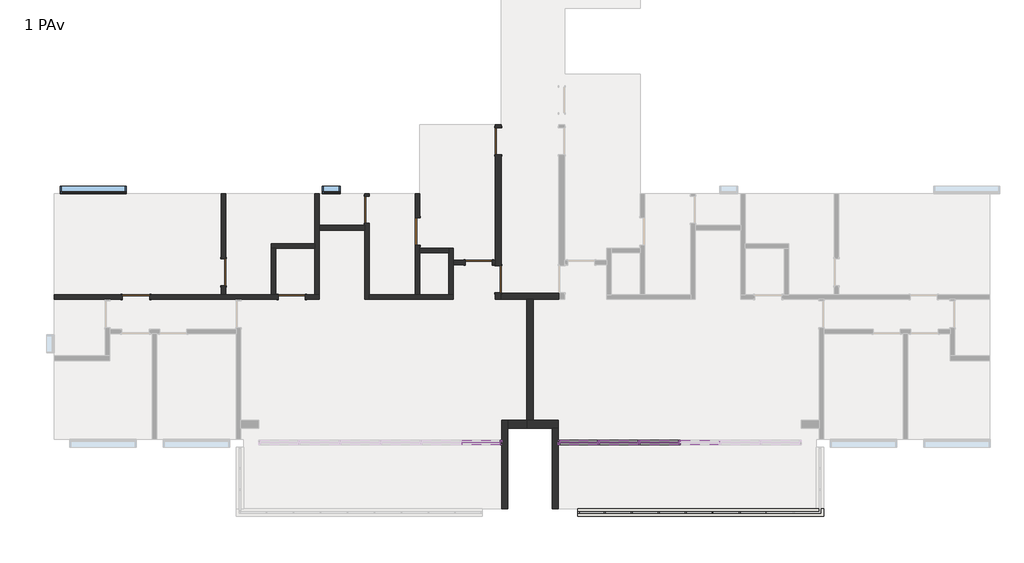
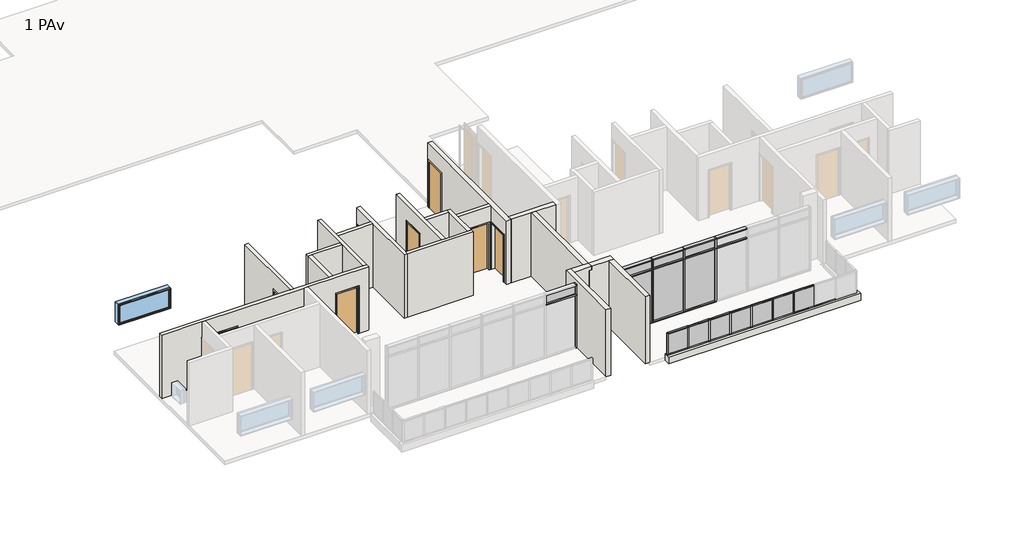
# One storey, part 2 of 6: 44 members, 20 walls, 14 plates, 8 doors, 2 windows.
"""IFC4 building model written with IfcOpenShell, lengths in millimetres."""

from ifc_helpers import new_model, si_unit, frame, origin, place, context, project, spatial, polyline, outline, extrude, faceted_brep, transform, mapped, element, save
from components import door_90_x_210_2c83007d, door_90_x_210_ee935524, door_90_x_210_565370b3, montante_retangular_50_mm_quadrado_4acded50, montante_retangular_50_mm_quadrado_237d7072, montante_retangular_50_mm_quadrado_84e40a56, montante_retangular_50_mm_quadrado_3d152aff, montante_retangular_50_x_150_mm_6217edde, montante_retangular_50_x_150_mm_a22249d7, montante_retangular_50_x_150_mm_6225e4e3, montante_retangular_50_x_150_mm_1ca2bba2, montante_retangular_50_x_150_mm_6abf4531, montante_retangular_50_x_150_mm_662c37b1, montante_retangular_50_x_150_mm_567eccab, montante_retangular_50_x_150_mm_0a8c3443, painel_do_sistema_57ceaf50, painel_do_sistema_ab0ed719, painel_do_sistema_1ecb5f42, painel_do_sistema_49db1829, painel_do_sistema_5ea5287b, painel_do_sistema_7730abee, window_0610_x_0610_mm_da1d4716, window_220_x_90_cea65aae

model = new_model("IFC4")

# Units and contexts
model_context = context("Model", 3, world=origin())
ifc_project = project(units=[si_unit("LENGTHUNIT", "METRE", prefix="MILLI")], contexts=[model_context])

# Site, building, storey
site = spatial("IfcSite", under=ifc_project)
building = spatial("IfcBuilding", under=site)
storey = spatial("IfcBuildingStorey", under=building, Name="1 PAv", Elevation=3000.0)

# Doors
placement = place(None, origin())
door_90_x_210_shape = door_90_x_210_2c83007d(model_context)
element("IfcDoor", 1, ObjectType="M_Descarga simples : 90 x 210", at=placement, inside=storey, context=model_context, shape_type="MappedRepresentation", body=[
    mapped(door_90_x_210_shape, transform((-2076.2265742, -2546.3385375, 3000.0), x_axis=(0.0, 1.0, 0.0), y_axis=(-1.0, 0.0, 0.0), z_axis=(0.0, 0.0, 1.0))),
])
element("IfcDoor", 2, ObjectType="M_Descarga simples : 90 x 210", at=placement, inside=storey, context=model_context, shape_type="MappedRepresentation", body=[
    mapped(door_90_x_210_shape, transform((-2076.2265742, -7125.9292512, 3000.0), x_axis=(0.0, -1.0, 0.0), y_axis=(1.0, 0.0, 0.0), z_axis=(0.0, 0.0, 1.0))),
])
door_90_x_210_2_shape = door_90_x_210_ee935524(model_context)
element("IfcDoor", 3, ObjectType="M_Descarga simples : 90 x 210", at=placement, inside=storey, context=model_context, shape_type="MappedRepresentation", body=[
    mapped(door_90_x_210_2_shape, transform((-2726.2265742, -6571.3385375, 3000.0), x_axis=(1.0, 0.0, 0.0), y_axis=(0.0, 1.0, 0.0), z_axis=(0.0, 0.0, 1.0))),
])
element("IfcDoor", 4, ObjectType="M_Descarga simples : 90 x 210", at=placement, inside=storey, context=model_context, shape_type="MappedRepresentation", body=[
    mapped(door_90_x_210_2_shape, transform((-4751.2265742, -5536.3385375, 3000.0), x_axis=(0.0, 1.0, 0.0), y_axis=(-1.0, 0.0, 0.0), z_axis=(0.0, 0.0, 1.0))),
])
element("IfcDoor", 5, ObjectType="M_Descarga simples : 90 x 210", at=placement, inside=storey, context=model_context, shape_type="MappedRepresentation", body=[
    mapped(door_90_x_210_2_shape, transform((-6441.2265742, -4811.3385375, 3000.0), x_axis=(0.0, 1.0, 0.0), y_axis=(-1.0, 0.0, 0.0), z_axis=(0.0, 0.0, 1.0))),
])
element("IfcDoor", 6, ObjectType="M_Descarga simples : 90 x 210", at=placement, inside=storey, context=model_context, shape_type="MappedRepresentation", body=[
    mapped(door_90_x_210_2_shape, transform((-11191.2265742, -6886.3385375, 3000.0), x_axis=(0.0, -1.0, 0.0), y_axis=(1.0, 0.0, 0.0), z_axis=(0.0, 0.0, 1.0))),
])
door_90_x_210_3_shape = door_90_x_210_565370b3(model_context)
element("IfcDoor", 7, ObjectType="M_Descarga simples : 90 x 210", at=placement, inside=storey, context=model_context, shape_type="MappedRepresentation", body=[
    mapped(door_90_x_210_3_shape, transform((-14096.2265742, -7711.3385375, 3000.0), x_axis=(-1.0, 0.0, 0.0), y_axis=(0.0, -1.0, 0.0), z_axis=(0.0, 0.0, 1.0))),
])
element("IfcDoor", 8, ObjectType="M_Descarga simples : 90 x 210", at=placement, inside=storey, context=model_context, shape_type="MappedRepresentation", body=[
    mapped(door_90_x_210_3_shape, transform((-8936.2265742, -7711.3385375, 3000.0), x_axis=(-1.0, 0.0, 0.0), y_axis=(0.0, -1.0, 0.0), z_axis=(0.0, 0.0, 1.0))),
])

# Members
montante_retangular_50_mm_quadrado_shape = montante_retangular_50_mm_quadrado_4acded50(model_context)
element("IfcMember", 9, ObjectType="Montante retangular : 50 mm Quadrado", at=placement, inside=storey, context=model_context, shape_type="MappedRepresentation", body=[
    mapped(montante_retangular_50_mm_quadrado_shape, transform((1428.7734258, -14856.3385375, 4150.0), x_axis=(0.0, 0.0, 1.0), y_axis=(0.0, -1.0, 0.0), z_axis=(1.0, 0.0, 0.0))),
])
montante_retangular_50_mm_quadrado_2_shape = montante_retangular_50_mm_quadrado_237d7072(model_context)
element("IfcMember", 10, ObjectType="Montante retangular : 50 mm Quadrado", at=placement, inside=storey, context=model_context, shape_type="MappedRepresentation", body=[
    mapped(montante_retangular_50_mm_quadrado_2_shape, transform((2323.7734258, -14856.3385375, 4150.0), x_axis=(0.0, 0.0, 1.0), y_axis=(0.0, -1.0, 0.0), z_axis=(1.0, 0.0, 0.0))),
])
element("IfcMember", 11, ObjectType="Montante retangular : 50 mm Quadrado", at=placement, inside=storey, context=model_context, shape_type="MappedRepresentation", body=[
    mapped(montante_retangular_50_mm_quadrado_2_shape, transform((3218.7734258, -14856.3385375, 4150.0), x_axis=(0.0, 0.0, 1.0), y_axis=(0.0, -1.0, 0.0), z_axis=(1.0, 0.0, 0.0))),
])
element("IfcMember", 12, ObjectType="Montante retangular : 50 mm Quadrado", at=placement, inside=storey, context=model_context, shape_type="MappedRepresentation", body=[
    mapped(montante_retangular_50_mm_quadrado_2_shape, transform((4113.7734258, -14856.3385375, 4150.0), x_axis=(0.0, 0.0, 1.0), y_axis=(0.0, -1.0, 0.0), z_axis=(1.0, 0.0, 0.0))),
])
element("IfcMember", 13, ObjectType="Montante retangular : 50 mm Quadrado", at=placement, inside=storey, context=model_context, shape_type="MappedRepresentation", body=[
    mapped(montante_retangular_50_mm_quadrado_2_shape, transform((5008.7734258, -14856.3385375, 4150.0), x_axis=(0.0, 0.0, 1.0), y_axis=(0.0, -1.0, 0.0), z_axis=(1.0, 0.0, 0.0))),
])
element("IfcMember", 14, ObjectType="Montante retangular : 50 mm Quadrado", at=placement, inside=storey, context=model_context, shape_type="MappedRepresentation", body=[
    mapped(montante_retangular_50_mm_quadrado_2_shape, transform((5903.7734258, -14856.3385375, 4150.0), x_axis=(0.0, 0.0, 1.0), y_axis=(0.0, -1.0, 0.0), z_axis=(1.0, 0.0, 0.0))),
])
element("IfcMember", 15, ObjectType="Montante retangular : 50 mm Quadrado", at=placement, inside=storey, context=model_context, shape_type="MappedRepresentation", body=[
    mapped(montante_retangular_50_mm_quadrado_2_shape, transform((6798.7734258, -14856.3385375, 4150.0), x_axis=(0.0, 0.0, 1.0), y_axis=(0.0, -1.0, 0.0), z_axis=(1.0, 0.0, 0.0))),
])
element("IfcMember", 16, ObjectType="Montante retangular : 50 mm Quadrado", at=placement, inside=storey, context=model_context, shape_type="MappedRepresentation", body=[
    mapped(montante_retangular_50_mm_quadrado_shape, transform((608.7734258, -14856.3385375, 3150.0), x_axis=(0.0, 0.0, -1.0), y_axis=(0.0, -1.0, 0.0), z_axis=(-1.0, 0.0, 0.0))),
])
element("IfcMember", 17, ObjectType="Montante retangular : 50 mm Quadrado", at=placement, inside=storey, context=model_context, shape_type="MappedRepresentation", body=[
    mapped(montante_retangular_50_mm_quadrado_2_shape, transform((1478.7734258, -14856.3385375, 3150.0), x_axis=(0.0, 0.0, -1.0), y_axis=(0.0, -1.0, 0.0), z_axis=(-1.0, 0.0, 0.0))),
])
element("IfcMember", 18, ObjectType="Montante retangular : 50 mm Quadrado", at=placement, inside=storey, context=model_context, shape_type="MappedRepresentation", body=[
    mapped(montante_retangular_50_mm_quadrado_2_shape, transform((2373.7734258, -14856.3385375, 3150.0), x_axis=(0.0, 0.0, -1.0), y_axis=(0.0, -1.0, 0.0), z_axis=(-1.0, 0.0, 0.0))),
])
element("IfcMember", 19, ObjectType="Montante retangular : 50 mm Quadrado", at=placement, inside=storey, context=model_context, shape_type="MappedRepresentation", body=[
    mapped(montante_retangular_50_mm_quadrado_2_shape, transform((3268.7734258, -14856.3385375, 3150.0), x_axis=(0.0, 0.0, -1.0), y_axis=(0.0, -1.0, 0.0), z_axis=(-1.0, 0.0, 0.0))),
])
element("IfcMember", 20, ObjectType="Montante retangular : 50 mm Quadrado", at=placement, inside=storey, context=model_context, shape_type="MappedRepresentation", body=[
    mapped(montante_retangular_50_mm_quadrado_2_shape, transform((4163.7734258, -14856.3385375, 3150.0), x_axis=(0.0, 0.0, -1.0), y_axis=(0.0, -1.0, 0.0), z_axis=(-1.0, 0.0, 0.0))),
])
element("IfcMember", 21, ObjectType="Montante retangular : 50 mm Quadrado", at=placement, inside=storey, context=model_context, shape_type="MappedRepresentation", body=[
    mapped(montante_retangular_50_mm_quadrado_2_shape, transform((5058.7734258, -14856.3385375, 3150.0), x_axis=(0.0, 0.0, -1.0), y_axis=(0.0, -1.0, 0.0), z_axis=(-1.0, 0.0, 0.0))),
])
element("IfcMember", 22, ObjectType="Montante retangular : 50 mm Quadrado", at=placement, inside=storey, context=model_context, shape_type="MappedRepresentation", body=[
    mapped(montante_retangular_50_mm_quadrado_2_shape, transform((5953.7734258, -14856.3385375, 3150.0), x_axis=(0.0, 0.0, -1.0), y_axis=(0.0, -1.0, 0.0), z_axis=(-1.0, 0.0, 0.0))),
])
element("IfcMember", 23, ObjectType="Montante retangular : 50 mm Quadrado", at=placement, inside=storey, context=model_context, shape_type="MappedRepresentation", body=[
    mapped(montante_retangular_50_mm_quadrado_2_shape, transform((6848.7734258, -14856.3385375, 3150.0), x_axis=(0.0, 0.0, -1.0), y_axis=(0.0, -1.0, 0.0), z_axis=(-1.0, 0.0, 0.0))),
])
montante_retangular_50_mm_quadrado_3_shape = montante_retangular_50_mm_quadrado_84e40a56(model_context)
element("IfcMember", 24, ObjectType="Montante retangular : 50 mm Quadrado", at=placement, inside=storey, context=model_context, shape_type="MappedRepresentation", body=[
    mapped(montante_retangular_50_mm_quadrado_3_shape, transform((1453.7734258, -14856.3385375, 3150.0), x_axis=(1.0, 0.0, 0.0), y_axis=(0.0, -1.0, 0.0), z_axis=(0.0, 0.0, -1.0))),
])
element("IfcMember", 25, ObjectType="Montante retangular : 50 mm Quadrado", at=placement, inside=storey, context=model_context, shape_type="MappedRepresentation", body=[
    mapped(montante_retangular_50_mm_quadrado_3_shape, transform((2348.7734258, -14856.3385375, 3150.0), x_axis=(1.0, 0.0, 0.0), y_axis=(0.0, -1.0, 0.0), z_axis=(0.0, 0.0, -1.0))),
])
element("IfcMember", 26, ObjectType="Montante retangular : 50 mm Quadrado", at=placement, inside=storey, context=model_context, shape_type="MappedRepresentation", body=[
    mapped(montante_retangular_50_mm_quadrado_3_shape, transform((3243.7734258, -14856.3385375, 3150.0), x_axis=(1.0, 0.0, 0.0), y_axis=(0.0, -1.0, 0.0), z_axis=(0.0, 0.0, -1.0))),
])
element("IfcMember", 27, ObjectType="Montante retangular : 50 mm Quadrado", at=placement, inside=storey, context=model_context, shape_type="MappedRepresentation", body=[
    mapped(montante_retangular_50_mm_quadrado_3_shape, transform((4138.7734258, -14856.3385375, 3150.0), x_axis=(1.0, 0.0, 0.0), y_axis=(0.0, -1.0, 0.0), z_axis=(0.0, 0.0, -1.0))),
])
element("IfcMember", 28, ObjectType="Montante retangular : 50 mm Quadrado", at=placement, inside=storey, context=model_context, shape_type="MappedRepresentation", body=[
    mapped(montante_retangular_50_mm_quadrado_3_shape, transform((5033.7734258, -14856.3385375, 3150.0), x_axis=(1.0, 0.0, 0.0), y_axis=(0.0, -1.0, 0.0), z_axis=(0.0, 0.0, -1.0))),
])
element("IfcMember", 29, ObjectType="Montante retangular : 50 mm Quadrado", at=placement, inside=storey, context=model_context, shape_type="MappedRepresentation", body=[
    mapped(montante_retangular_50_mm_quadrado_3_shape, transform((5928.7734258, -14856.3385375, 3150.0), x_axis=(1.0, 0.0, 0.0), y_axis=(0.0, -1.0, 0.0), z_axis=(0.0, 0.0, -1.0))),
])
montante_retangular_50_mm_quadrado_4_shape = montante_retangular_50_mm_quadrado_3d152aff(model_context)
element("IfcMember", 30, ObjectType="Montante retangular : 50 mm Quadrado", at=placement, inside=storey, context=model_context, shape_type="MappedRepresentation", body=[
    mapped(montante_retangular_50_mm_quadrado_4_shape, transform((558.7734258, -14856.3385375, 4150.0), x_axis=(-1.0, 0.0, 0.0), y_axis=(0.0, -1.0, 0.0), z_axis=(0.0, 0.0, 1.0))),
])
montante_retangular_50_x_150_mm_shape = montante_retangular_50_x_150_mm_6217edde(model_context)
element("IfcMember", 31, ObjectType="Montante retangular : 50 x 150 mm", at=placement, inside=storey, context=model_context, shape_type="MappedRepresentation", body=[
    mapped(montante_retangular_50_x_150_mm_shape, transform((-41.2265742, -12536.3385375, 5850.0), x_axis=(0.0, 0.0, 1.0), y_axis=(0.0, 1.0, 0.0), z_axis=(-1.0, 0.0, 0.0))),
])
montante_retangular_50_x_150_mm_2_shape = montante_retangular_50_x_150_mm_a22249d7(model_context)
element("IfcMember", 32, ObjectType="Montante retangular : 50 x 150 mm", at=placement, inside=storey, context=model_context, shape_type="MappedRepresentation", body=[
    mapped(montante_retangular_50_x_150_mm_2_shape, transform((3966.2734258, -12536.3385375, 5850.0), x_axis=(0.0, 0.0, 1.0), y_axis=(0.0, 1.0, 0.0), z_axis=(-1.0, 0.0, 0.0))),
])
element("IfcMember", 33, ObjectType="Montante retangular : 50 x 150 mm", at=placement, inside=storey, context=model_context, shape_type="MappedRepresentation", body=[
    mapped(montante_retangular_50_x_150_mm_2_shape, transform((2622.1067592, -12536.3385375, 5850.0), x_axis=(0.0, 0.0, 1.0), y_axis=(0.0, 1.0, 0.0), z_axis=(-1.0, 0.0, 0.0))),
])
element("IfcMember", 34, ObjectType="Montante retangular : 50 x 150 mm", at=placement, inside=storey, context=model_context, shape_type="MappedRepresentation", body=[
    mapped(montante_retangular_50_x_150_mm_2_shape, transform((1277.9400925, -12536.3385375, 5850.0), x_axis=(0.0, 0.0, 1.0), y_axis=(0.0, 1.0, 0.0), z_axis=(-1.0, 0.0, 0.0))),
])
element("IfcMember", 35, ObjectType="Montante retangular : 50 x 150 mm", at=placement, inside=storey, context=model_context, shape_type="MappedRepresentation", body=[
    mapped(montante_retangular_50_x_150_mm_shape, transform((1227.9400925, -12536.3385375, 3000.0), x_axis=(0.0, 0.0, -1.0), y_axis=(0.0, 1.0, 0.0), z_axis=(1.0, 0.0, 0.0))),
])
element("IfcMember", 36, ObjectType="Montante retangular : 50 x 150 mm", at=placement, inside=storey, context=model_context, shape_type="MappedRepresentation", body=[
    mapped(montante_retangular_50_x_150_mm_2_shape, transform((3916.2734258, -12536.3385375, 3000.0), x_axis=(0.0, 0.0, -1.0), y_axis=(0.0, 1.0, 0.0), z_axis=(1.0, 0.0, 0.0))),
])
element("IfcMember", 37, ObjectType="Montante retangular : 50 x 150 mm", at=placement, inside=storey, context=model_context, shape_type="MappedRepresentation", body=[
    mapped(montante_retangular_50_x_150_mm_2_shape, transform((2572.1067592, -12536.3385375, 3000.0), x_axis=(0.0, 0.0, -1.0), y_axis=(0.0, 1.0, 0.0), z_axis=(1.0, 0.0, 0.0))),
])
montante_retangular_50_x_150_mm_3_shape = montante_retangular_50_x_150_mm_6225e4e3(model_context)
element("IfcMember", 38, ObjectType="Montante retangular : 50 x 150 mm", at=placement, inside=storey, context=model_context, shape_type="MappedRepresentation", body=[
    mapped(montante_retangular_50_x_150_mm_3_shape, transform((3941.2734258, -12536.3385375, 3000.0), x_axis=(-1.0, 0.0, 0.0), y_axis=(0.0, 1.0, 0.0), z_axis=(0.0, 0.0, -1.0))),
])
element("IfcMember", 39, ObjectType="Montante retangular : 50 x 150 mm", at=placement, inside=storey, context=model_context, shape_type="MappedRepresentation", body=[
    mapped(montante_retangular_50_x_150_mm_3_shape, transform((2597.1067592, -12536.3385375, 3000.0), x_axis=(-1.0, 0.0, 0.0), y_axis=(0.0, 1.0, 0.0), z_axis=(0.0, 0.0, -1.0))),
])
element("IfcMember", 40, ObjectType="Montante retangular : 50 x 150 mm", at=placement, inside=storey, context=model_context, shape_type="MappedRepresentation", body=[
    mapped(montante_retangular_50_x_150_mm_3_shape, transform((1252.9400925, -12536.3385375, 3000.0), x_axis=(-1.0, 0.0, 0.0), y_axis=(0.0, 1.0, 0.0), z_axis=(0.0, 0.0, -1.0))),
])
montante_retangular_50_x_150_mm_4_shape = montante_retangular_50_x_150_mm_1ca2bba2(model_context)
element("IfcMember", 41, ObjectType="Montante retangular : 50 x 150 mm", at=placement, inside=storey, context=model_context, shape_type="MappedRepresentation", body=[
    mapped(montante_retangular_50_x_150_mm_4_shape, transform((-41.2265742, -12536.3385375, 5400.0), x_axis=(0.0, 0.0, 1.0), y_axis=(0.0, 1.0, 0.0), z_axis=(-1.0, 0.0, 0.0))),
])
montante_retangular_50_x_150_mm_5_shape = montante_retangular_50_x_150_mm_6abf4531(model_context)
element("IfcMember", 42, ObjectType="Montante retangular : 50 x 150 mm", at=placement, inside=storey, context=model_context, shape_type="MappedRepresentation", body=[
    mapped(montante_retangular_50_x_150_mm_5_shape, transform((3966.2734258, -12536.3385375, 5400.0), x_axis=(0.0, 0.0, 1.0), y_axis=(0.0, 1.0, 0.0), z_axis=(-1.0, 0.0, 0.0))),
])
element("IfcMember", 43, ObjectType="Montante retangular : 50 x 150 mm", at=placement, inside=storey, context=model_context, shape_type="MappedRepresentation", body=[
    mapped(montante_retangular_50_x_150_mm_5_shape, transform((2622.1067592, -12536.3385375, 5400.0), x_axis=(0.0, 0.0, 1.0), y_axis=(0.0, 1.0, 0.0), z_axis=(-1.0, 0.0, 0.0))),
])
element("IfcMember", 44, ObjectType="Montante retangular : 50 x 150 mm", at=placement, inside=storey, context=model_context, shape_type="MappedRepresentation", body=[
    mapped(montante_retangular_50_x_150_mm_5_shape, transform((1277.9400925, -12536.3385375, 5400.0), x_axis=(0.0, 0.0, 1.0), y_axis=(0.0, 1.0, 0.0), z_axis=(-1.0, 0.0, 0.0))),
])
montante_retangular_50_x_150_mm_6_shape = montante_retangular_50_x_150_mm_662c37b1(model_context)
element("IfcMember", 45, ObjectType="Montante retangular : 50 x 150 mm", at=placement, inside=storey, context=model_context, shape_type="MappedRepresentation", body=[
    mapped(montante_retangular_50_x_150_mm_6_shape, transform((-91.2265742, -12536.3385375, 3000.0), x_axis=(-1.0, 0.0, 0.0), y_axis=(0.0, 1.0, 0.0), z_axis=(0.0, 0.0, -1.0))),
])
montante_retangular_50_x_150_mm_7_shape = montante_retangular_50_x_150_mm_567eccab(model_context)
element("IfcMember", 46, ObjectType="Montante retangular : 50 x 150 mm", at=placement, inside=storey, context=model_context, shape_type="MappedRepresentation", body=[
    mapped(montante_retangular_50_x_150_mm_7_shape, transform((3941.2734258, -12536.3385375, 5400.0), x_axis=(-1.0, 0.0, 0.0), y_axis=(0.0, 1.0, 0.0), z_axis=(0.0, 0.0, -1.0))),
])
element("IfcMember", 47, ObjectType="Montante retangular : 50 x 150 mm", at=placement, inside=storey, context=model_context, shape_type="MappedRepresentation", body=[
    mapped(montante_retangular_50_x_150_mm_7_shape, transform((2597.1067592, -12536.3385375, 5400.0), x_axis=(-1.0, 0.0, 0.0), y_axis=(0.0, 1.0, 0.0), z_axis=(0.0, 0.0, -1.0))),
])
element("IfcMember", 48, ObjectType="Montante retangular : 50 x 150 mm", at=placement, inside=storey, context=model_context, shape_type="MappedRepresentation", body=[
    mapped(montante_retangular_50_x_150_mm_7_shape, transform((1252.9400925, -12536.3385375, 5400.0), x_axis=(-1.0, 0.0, 0.0), y_axis=(0.0, 1.0, 0.0), z_axis=(0.0, 0.0, -1.0))),
])
montante_retangular_50_x_150_mm_8_shape = montante_retangular_50_x_150_mm_0a8c3443(model_context)
element("IfcMember", 49, ObjectType="Montante retangular : 50 x 150 mm", at=placement, inside=storey, context=model_context, shape_type="MappedRepresentation", body=[
    mapped(montante_retangular_50_x_150_mm_8_shape, transform((-91.2265742, -12536.3385375, 5400.0), x_axis=(-1.0, 0.0, 0.0), y_axis=(0.0, 1.0, 0.0), z_axis=(0.0, 0.0, -1.0))),
])
element("IfcMember", 50, ObjectType="Montante retangular : 50 x 150 mm", at=placement, inside=storey, context=model_context, shape_type="MappedRepresentation", body=[
    mapped(montante_retangular_50_x_150_mm_4_shape, transform((-2011.2265742, -12536.3385375, 5400.0), x_axis=(0.0, 0.0, 1.0), y_axis=(0.0, -1.0, 0.0), z_axis=(1.0, 0.0, 0.0))),
])
element("IfcMember", 51, ObjectType="Montante retangular : 50 x 150 mm", at=placement, inside=storey, context=model_context, shape_type="MappedRepresentation", body=[
    mapped(montante_retangular_50_x_150_mm_6_shape, transform((-1961.2265742, -12536.3385375, 3000.0), x_axis=(1.0, 0.0, 0.0), y_axis=(0.0, -1.0, 0.0), z_axis=(0.0, 0.0, -1.0))),
])
element("IfcMember", 52, ObjectType="Montante retangular : 50 x 150 mm", at=placement, inside=storey, context=model_context, shape_type="MappedRepresentation", body=[
    mapped(montante_retangular_50_x_150_mm_8_shape, transform((-1961.2265742, -12536.3385375, 5400.0), x_axis=(1.0, 0.0, 0.0), y_axis=(0.0, -1.0, 0.0), z_axis=(0.0, 0.0, -1.0))),
])

# Plates
painel_do_sistema_shape = painel_do_sistema_57ceaf50(model_context)
element("IfcPlate", 53, ObjectType="Painel do sistema : Envidraçado", at=placement, inside=storey, context=model_context, shape_type="MappedRepresentation", body=[
    mapped(painel_do_sistema_shape, transform((1018.7734258, -14856.3385375, 3200.0), x_axis=(1.0, 0.0, 0.0), y_axis=(0.0, 1.0, 0.0), z_axis=(0.0, 0.0, 1.0))),
])
painel_do_sistema_2_shape = painel_do_sistema_ab0ed719(model_context)
element("IfcPlate", 54, ObjectType="Painel do sistema : Envidraçado", at=placement, inside=storey, context=model_context, shape_type="MappedRepresentation", body=[
    mapped(painel_do_sistema_2_shape, transform((1901.2734258, -14856.3385375, 3200.0), x_axis=(1.0, 0.0, 0.0), y_axis=(0.0, 1.0, 0.0), z_axis=(0.0, 0.0, 1.0))),
])
element("IfcPlate", 55, ObjectType="Painel do sistema : Envidraçado", at=placement, inside=storey, context=model_context, shape_type="MappedRepresentation", body=[
    mapped(painel_do_sistema_2_shape, transform((2796.2734258, -14856.3385375, 3200.0), x_axis=(1.0, 0.0, 0.0), y_axis=(0.0, 1.0, 0.0), z_axis=(0.0, 0.0, 1.0))),
])
element("IfcPlate", 56, ObjectType="Painel do sistema : Envidraçado", at=placement, inside=storey, context=model_context, shape_type="MappedRepresentation", body=[
    mapped(painel_do_sistema_2_shape, transform((3691.2734258, -14856.3385375, 3200.0), x_axis=(1.0, 0.0, 0.0), y_axis=(0.0, 1.0, 0.0), z_axis=(0.0, 0.0, 1.0))),
])
element("IfcPlate", 57, ObjectType="Painel do sistema : Envidraçado", at=placement, inside=storey, context=model_context, shape_type="MappedRepresentation", body=[
    mapped(painel_do_sistema_2_shape, transform((4586.2734258, -14856.3385375, 3200.0), x_axis=(1.0, 0.0, 0.0), y_axis=(0.0, 1.0, 0.0), z_axis=(0.0, 0.0, 1.0))),
])
element("IfcPlate", 58, ObjectType="Painel do sistema : Envidraçado", at=placement, inside=storey, context=model_context, shape_type="MappedRepresentation", body=[
    mapped(painel_do_sistema_2_shape, transform((5481.2734258, -14856.3385375, 3200.0), x_axis=(1.0, 0.0, 0.0), y_axis=(0.0, 1.0, 0.0), z_axis=(0.0, 0.0, 1.0))),
])
element("IfcPlate", 59, ObjectType="Painel do sistema : Envidraçado", at=placement, inside=storey, context=model_context, shape_type="MappedRepresentation", body=[
    mapped(painel_do_sistema_2_shape, transform((6376.2734258, -14856.3385375, 3200.0), x_axis=(1.0, 0.0, 0.0), y_axis=(0.0, 1.0, 0.0), z_axis=(0.0, 0.0, 1.0))),
])
painel_do_sistema_3_shape = painel_do_sistema_1ecb5f42(model_context)
element("IfcPlate", 60, ObjectType="Painel do sistema : Envidraçado", at=placement, inside=storey, context=model_context, shape_type="MappedRepresentation", body=[
    mapped(painel_do_sistema_3_shape, transform((593.3567592, -12536.3385375, 3050.0), x_axis=(-1.0, 0.0, 0.0), y_axis=(0.0, -1.0, 0.0), z_axis=(0.0, 0.0, 1.0))),
])
painel_do_sistema_4_shape = painel_do_sistema_49db1829(model_context)
element("IfcPlate", 61, ObjectType="Painel do sistema : Envidraçado", at=placement, inside=storey, context=model_context, shape_type="MappedRepresentation", body=[
    mapped(painel_do_sistema_4_shape, transform((3269.1900925, -12536.3385375, 3050.0), x_axis=(-1.0, 0.0, 0.0), y_axis=(0.0, -1.0, 0.0), z_axis=(0.0, 0.0, 1.0))),
])
element("IfcPlate", 62, ObjectType="Painel do sistema : Envidraçado", at=placement, inside=storey, context=model_context, shape_type="MappedRepresentation", body=[
    mapped(painel_do_sistema_4_shape, transform((1925.0234258, -12536.3385375, 3050.0), x_axis=(-1.0, 0.0, 0.0), y_axis=(0.0, -1.0, 0.0), z_axis=(0.0, 0.0, 1.0))),
])
painel_do_sistema_5_shape = painel_do_sistema_5ea5287b(model_context)
element("IfcPlate", 63, ObjectType="Painel do sistema : Envidraçado", at=placement, inside=storey, context=model_context, shape_type="MappedRepresentation", body=[
    mapped(painel_do_sistema_5_shape, transform((593.3567592, -12536.3385375, 5425.0), x_axis=(-1.0, 0.0, 0.0), y_axis=(0.0, -1.0, 0.0), z_axis=(0.0, 0.0, 1.0))),
])
painel_do_sistema_6_shape = painel_do_sistema_7730abee(model_context)
element("IfcPlate", 64, ObjectType="Painel do sistema : Envidraçado", at=placement, inside=storey, context=model_context, shape_type="MappedRepresentation", body=[
    mapped(painel_do_sistema_6_shape, transform((3269.1900925, -12536.3385375, 5425.0), x_axis=(-1.0, 0.0, 0.0), y_axis=(0.0, -1.0, 0.0), z_axis=(0.0, 0.0, 1.0))),
])
element("IfcPlate", 65, ObjectType="Painel do sistema : Envidraçado", at=placement, inside=storey, context=model_context, shape_type="MappedRepresentation", body=[
    mapped(painel_do_sistema_6_shape, transform((1925.0234258, -12536.3385375, 5425.0), x_axis=(-1.0, 0.0, 0.0), y_axis=(0.0, -1.0, 0.0), z_axis=(0.0, 0.0, 1.0))),
])
element("IfcPlate", 66, ObjectType="Painel do sistema : Envidraçado", at=placement, inside=storey, context=model_context, shape_type="MappedRepresentation", body=[
    mapped(painel_do_sistema_5_shape, transform((-2645.8099075, -12536.3385375, 5425.0), x_axis=(1.0, 0.0, 0.0), y_axis=(0.0, 1.0, 0.0), z_axis=(0.0, 0.0, 1.0))),
])

# Walls
element("IfcWall", 67, ObjectType="Exeterna 25", at=placement, inside=storey, context=model_context, shape_type="Brep", body=[
    faceted_brep([(-1126.2265742, -12056.3385375, 3000.0), (-291.2265742, -12056.3385375, 3000.0), (-91.2265742, -12056.3385375, 3000.0), (-91.2265742, -12056.3385375, 6000.0), (-291.2265742, -12056.3385375, 6000.0), (-1026.2265742, -12056.3385375, 6000.0), (-1026.2265742, -12056.3385375, 5850.0), (-1126.2265742, -12056.3385375, 5850.0), (-1126.2265742, -11806.3385375, 3000.0), (-1126.2265742, -11806.3385375, 5850.0), (-1026.2265742, -11806.3385375, 5850.0), (-1026.2265742, -11806.3385375, 6000.0), (-91.2265742, -11806.3385375, 6000.0), (-91.2265742, -11806.3385375, 3000.0), (-926.2265742, -11806.3385375, 3000.0)], [[[0, 1, 2, 3, 4, 5, 6, 7]], [[8, 9, 10, 11, 12, 13, 14]], [[2, 1, 0, 8, 14, 13]], [[5, 4, 3, 12, 11]], [[3, 2, 13, 12]], [[6, 5, 11, 10]], [[6, 10, 9, 7]], [[0, 7, 9, 8]]]),
])
element("IfcWall", 68, ObjectType="Exeterna 25", at=placement, inside=storey, context=model_context, shape_type="Brep", body=[
    faceted_brep([(558.7734258, -14981.3385375, 2850.0), (8713.7734258, -14981.3385375, 2850.0), (8713.7734258, -14981.3385375, 3150.0), (558.7734258, -14981.3385375, 3150.0), (558.7734258, -14731.3385375, 2850.0), (558.7734258, -14731.3385375, 3150.0), (8463.7734258, -14731.3385375, 3150.0), (8713.7734258, -14731.3385375, 3150.0), (8713.7734258, -14731.3385375, 2850.0), (8463.7734258, -14731.3385375, 2850.0)], [[[0, 1, 2, 3]], [[4, 5, 6, 7, 8, 9]], [[1, 0, 4, 9, 8]], [[3, 2, 7, 6, 5]], [[0, 3, 5, 4]], [[2, 1, 8, 7]]]),
])
element("IfcWall", 69, ObjectType="Exeterna 25", at=placement, inside=storey, context=model_context, shape_type="SweptSolid", body=[
    extrude(outline(polyline([(3000.0, -1126.2265742), (5850.0, -1126.2265742), (5850.0, -1026.2265742), (6000.0, -1026.2265742), (6000.0, -1761.2265742), (3000.0, -1761.2265742), (3000.0, -1126.2265742)])), frame((0.0, -12056.3385375, 0.0), z_axis=(0.0, 1.0, 0.0), x_axis=(0.0, 0.0, 1.0)), (0.0, 0.0, 1.0), 250.0),
])
element("IfcWall", 70, ObjectType="Interna 15", at=placement, inside=storey, context=model_context, shape_type="Brep", body=[
    faceted_brep([(-13646.2265742, -7786.3385375, 3000.0), (-10766.2265742, -7786.3385375, 3000.0), (-10616.2265742, -7786.3385375, 3000.0), (-9386.2265742, -7786.3385375, 3000.0), (-9386.2265742, -7786.3385375, 5100.0), (-8486.2265742, -7786.3385375, 5100.0), (-8486.2265742, -7786.3385375, 3000.0), (-8016.2265742, -7786.3385375, 3000.0), (-8016.2265742, -7786.3385375, 5850.0), (-10616.2265742, -7786.3385375, 5850.0), (-10766.2265742, -7786.3385375, 5850.0), (-14966.2265742, -7786.3385375, 5850.0), (-15116.2265742, -7786.3385375, 5850.0), (-16816.2265742, -7786.3385375, 5850.0), (-16816.2265742, -7786.3385375, 3000.0), (-15116.2265742, -7786.3385375, 3000.0), (-14966.2265742, -7786.3385375, 3000.0), (-14546.2265742, -7786.3385375, 3000.0), (-14546.2265742, -7786.3385375, 5100.0), (-13646.2265742, -7786.3385375, 5100.0), (-9386.2265742, -7636.3385375, 5100.0), (-9386.2265742, -7636.3385375, 3000.0), (-9466.2265742, -7636.3385375, 3000.0), (-9616.2265742, -7636.3385375, 3000.0), (-11116.2265742, -7636.3385375, 3000.0), (-11266.2265742, -7636.3385375, 3000.0), (-13646.2265742, -7636.3385375, 3000.0), (-13646.2265742, -7636.3385375, 5100.0), (-14546.2265742, -7636.3385375, 5100.0), (-14546.2265742, -7636.3385375, 3000.0), (-16816.2265742, -7636.3385375, 3000.0), (-16816.2265742, -7636.3385375, 5850.0), (-11266.2265742, -7636.3385375, 5850.0), (-11116.2265742, -7636.3385375, 5850.0), (-9616.2265742, -7636.3385375, 5850.0), (-9466.2265742, -7636.3385375, 5850.0), (-8166.2265742, -7636.3385375, 5850.0), (-8016.2265742, -7636.3385375, 5850.0), (-8016.2265742, -7636.3385375, 3000.0), (-8166.2265742, -7636.3385375, 3000.0), (-8486.2265742, -7636.3385375, 3000.0), (-8486.2265742, -7636.3385375, 5100.0)], [[[0, 1, 2, 3, 4, 5, 6, 7, 8, 9, 10, 11, 12, 13, 14, 15, 16, 17, 18, 19]], [[20, 21, 22, 23, 24, 25, 26, 27, 28, 29, 30, 31, 32, 33, 34, 35, 36, 37, 38, 39, 40, 41]], [[30, 29, 17, 16, 15, 14]], [[40, 39, 38, 7, 6]], [[26, 25, 24, 23, 22, 21, 3, 2, 1, 0]], [[13, 12, 11, 10, 9, 8, 37, 36, 35, 34, 33, 32, 31]], [[14, 13, 31, 30]], [[8, 7, 38, 37]], [[18, 17, 29, 28]], [[19, 18, 28, 27]], [[0, 19, 27, 26]], [[4, 3, 21, 20]], [[5, 4, 20, 41]], [[6, 5, 41, 40]]]),
])
element("IfcWall", 71, ObjectType="Interna 15", at=placement, inside=storey, context=model_context, shape_type="Brep", body=[
    faceted_brep([(-8016.2265742, -7636.3385375, 3000.0), (-8016.2265742, -5486.3385375, 3000.0), (-8016.2265742, -5336.3385375, 3000.0), (-8016.2265742, -4286.3385375, 3000.0), (-8016.2265742, -4286.3385375, 5850.0), (-8016.2265742, -5336.3385375, 5850.0), (-8016.2265742, -5486.3385375, 5850.0), (-8016.2265742, -7636.3385375, 5850.0), (-8166.2265742, -7636.3385375, 3000.0), (-8166.2265742, -7636.3385375, 5850.0), (-8166.2265742, -6086.3385375, 5850.0), (-8166.2265742, -5936.3385375, 5850.0), (-8166.2265742, -4286.3385375, 5850.0), (-8166.2265742, -4286.3385375, 3000.0), (-8166.2265742, -5936.3385375, 3000.0), (-8166.2265742, -6086.3385375, 3000.0)], [[[0, 1, 2, 3, 4, 5, 6, 7]], [[8, 9, 10, 11, 12, 13, 14, 15]], [[3, 2, 1, 0, 8, 15, 14, 13]], [[7, 6, 5, 4, 12, 11, 10, 9]], [[0, 7, 9, 8]], [[4, 3, 13, 12]]]),
])
element("IfcWall", 72, ObjectType="Interna 15", at=placement, inside=storey, context=model_context, shape_type="Brep", body=[
    faceted_brep([(-8166.2265742, -5936.3385375, 3000.0), (-9616.2265742, -5936.3385375, 3000.0), (-9616.2265742, -5936.3385375, 5850.0), (-8166.2265742, -5936.3385375, 5850.0), (-8166.2265742, -6086.3385375, 3000.0), (-8166.2265742, -6086.3385375, 5850.0), (-9466.2265742, -6086.3385375, 5850.0), (-9616.2265742, -6086.3385375, 5850.0), (-9616.2265742, -6086.3385375, 3000.0), (-9466.2265742, -6086.3385375, 3000.0)], [[[0, 1, 2, 3]], [[4, 5, 6, 7, 8, 9]], [[1, 0, 4, 9, 8]], [[3, 2, 7, 6, 5]], [[0, 3, 5, 4]], [[2, 1, 8, 7]]]),
])
element("IfcWall", 73, ObjectType="Interna 15", at=placement, inside=storey, context=model_context, shape_type="SweptSolid", body=[
    extrude(outline(polyline([(-9616.2265742, -7636.3385375), (-9616.2265742, -6086.3385375), (-9466.2265742, -6086.3385375), (-9466.2265742, -7636.3385375), (-9616.2265742, -7636.3385375)])), frame((0.0, 0.0, 3000.0), z_axis=(0.0, 0.0, 1.0), x_axis=(1.0, 0.0, 0.0)), (0.0, 0.0, 1.0), 2850.0),
])
element("IfcWall", 74, ObjectType="Interna 15", at=placement, inside=storey, context=model_context, shape_type="SweptSolid", body=[
    extrude(outline(polyline([(-7336.3385375, 5100.0), (-7336.3385375, 3000.0), (-7636.3385375, 3000.0), (-7636.3385375, 5850.0), (-4286.3385375, 5850.0), (-4286.3385375, 3000.0), (-6436.3385375, 3000.0), (-6436.3385375, 5100.0), (-7336.3385375, 5100.0)])), frame((-11266.2265742, 0.0, 0.0), z_axis=(1.0, 0.0, 0.0), x_axis=(0.0, 1.0, 0.0)), (0.0, 0.0, 1.0), 150.0),
])
element("IfcWall", 75, ObjectType="Interna 15", at=placement, inside=storey, context=model_context, shape_type="SweptSolid", body=[
    extrude(outline(polyline([(-6516.2265742, -5486.3385375), (-8016.2265742, -5486.3385375), (-8016.2265742, -5336.3385375), (-6516.2265742, -5336.3385375), (-6516.2265742, -5486.3385375)])), frame((0.0, 0.0, 3000.0), z_axis=(0.0, 0.0, 1.0), x_axis=(1.0, 0.0, 0.0)), (0.0, 0.0, 1.0), 2850.0),
])
element("IfcWall", 76, ObjectType="Interna 15", at=placement, inside=storey, context=model_context, shape_type="Brep", body=[
    faceted_brep([(-6516.2265742, -4286.3385375, 3000.0), (-6516.2265742, -4361.3385375, 3000.0), (-6516.2265742, -4361.3385375, 5100.0), (-6516.2265742, -5261.3385375, 5100.0), (-6516.2265742, -5261.3385375, 3000.0), (-6516.2265742, -5336.3385375, 3000.0), (-6516.2265742, -5486.3385375, 3000.0), (-6516.2265742, -7786.3385375, 3000.0), (-6516.2265742, -7786.3385375, 5850.0), (-6516.2265742, -5486.3385375, 5850.0), (-6516.2265742, -5336.3385375, 5850.0), (-6516.2265742, -4286.3385375, 5850.0), (-6366.2265742, -4361.3385375, 5100.0), (-6366.2265742, -4361.3385375, 3000.0), (-6366.2265742, -4286.3385375, 3000.0), (-6366.2265742, -4286.3385375, 5850.0), (-6366.2265742, -7636.3385375, 5850.0), (-6366.2265742, -7786.3385375, 5850.0), (-6366.2265742, -7786.3385375, 3000.0), (-6366.2265742, -7636.3385375, 3000.0), (-6366.2265742, -5261.3385375, 3000.0), (-6366.2265742, -5261.3385375, 5100.0)], [[[0, 1, 2, 3, 4, 5, 6, 7, 8, 9, 10, 11]], [[12, 13, 14, 15, 16, 17, 18, 19, 20, 21]], [[14, 13, 1, 0]], [[20, 19, 18, 7, 6, 5, 4]], [[11, 10, 9, 8, 17, 16, 15]], [[0, 11, 15, 14]], [[8, 7, 18, 17]], [[2, 1, 13, 12]], [[3, 2, 12, 21]], [[4, 3, 21, 20]]]),
])
element("IfcWall", 77, ObjectType="Interna 15", at=placement, inside=storey, context=model_context, shape_type="Brep", body=[
    faceted_brep([(-6366.2265742, -7786.3385375, 3000.0), (-3576.2265742, -7786.3385375, 3000.0), (-3576.2265742, -7786.3385375, 5850.0), (-6366.2265742, -7786.3385375, 5850.0), (-6366.2265742, -7636.3385375, 3000.0), (-6366.2265742, -7636.3385375, 5850.0), (-4826.2265742, -7636.3385375, 5850.0), (-4676.2265742, -7636.3385375, 5850.0), (-3726.2265742, -7636.3385375, 5850.0), (-3576.2265742, -7636.3385375, 5850.0), (-3576.2265742, -7636.3385375, 3000.0), (-3726.2265742, -7636.3385375, 3000.0), (-4676.2265742, -7636.3385375, 3000.0), (-4826.2265742, -7636.3385375, 3000.0)], [[[0, 1, 2, 3]], [[4, 5, 6, 7, 8, 9, 10, 11, 12, 13]], [[1, 0, 4, 13, 12, 11, 10]], [[3, 2, 9, 8, 7, 6, 5]], [[0, 3, 5, 4]], [[2, 1, 10, 9]]]),
])
element("IfcWall", 78, ObjectType="Interna 15", at=placement, inside=storey, context=model_context, shape_type="Brep", body=[
    faceted_brep([(-4676.2265742, -5086.3385375, 5100.0), (-4676.2265742, -5086.3385375, 3000.0), (-4676.2265742, -4286.3385375, 3000.0), (-4676.2265742, -4286.3385375, 5850.0), (-4676.2265742, -6086.3385375, 5850.0), (-4676.2265742, -6236.3385375, 5850.0), (-4676.2265742, -7636.3385375, 5850.0), (-4676.2265742, -7636.3385375, 3000.0), (-4676.2265742, -6236.3385375, 3000.0), (-4676.2265742, -6086.3385375, 3000.0), (-4676.2265742, -5986.3385375, 3000.0), (-4676.2265742, -5986.3385375, 5100.0), (-4826.2265742, -4286.3385375, 3000.0), (-4826.2265742, -5086.3385375, 3000.0), (-4826.2265742, -5086.3385375, 5100.0), (-4826.2265742, -5986.3385375, 5100.0), (-4826.2265742, -5986.3385375, 3000.0), (-4826.2265742, -7636.3385375, 3000.0), (-4826.2265742, -7636.3385375, 5850.0), (-4826.2265742, -4286.3385375, 5850.0)], [[[0, 1, 2, 3, 4, 5, 6, 7, 8, 9, 10, 11]], [[12, 13, 14, 15, 16, 17, 18, 19]], [[2, 1, 13, 12]], [[10, 9, 8, 7, 17, 16]], [[6, 5, 4, 3, 19, 18]], [[3, 2, 12, 19]], [[7, 6, 18, 17]], [[14, 13, 1, 0]], [[15, 14, 0, 11]], [[16, 15, 11, 10]]]),
])
element("IfcWall", 79, ObjectType="Interna 15", at=placement, inside=storey, context=model_context, shape_type="Brep", body=[
    faceted_brep([(-3576.2265742, -7636.3385375, 3000.0), (-3576.2265742, -6646.3385375, 3000.0), (-3576.2265742, -6496.3385375, 3000.0), (-3576.2265742, -6086.3385375, 3000.0), (-3576.2265742, -6086.3385375, 5850.0), (-3576.2265742, -6496.3385375, 5850.0), (-3576.2265742, -6646.3385375, 5850.0), (-3576.2265742, -7636.3385375, 5850.0), (-3726.2265742, -7636.3385375, 3000.0), (-3726.2265742, -7636.3385375, 5850.0), (-3726.2265742, -6236.3385375, 5850.0), (-3726.2265742, -6086.3385375, 5850.0), (-3726.2265742, -6086.3385375, 3000.0), (-3726.2265742, -6236.3385375, 3000.0)], [[[0, 1, 2, 3, 4, 5, 6, 7]], [[8, 9, 10, 11, 12, 13]], [[3, 2, 1, 0, 8, 13, 12]], [[7, 6, 5, 4, 11, 10, 9]], [[4, 3, 12, 11]], [[0, 7, 9, 8]]]),
])
element("IfcWall", 80, ObjectType="Interna 15", at=placement, inside=storey, context=model_context, shape_type="SweptSolid", body=[
    extrude(outline(polyline([(-4676.2265742, -6086.3385375), (-3726.2265742, -6086.3385375), (-3726.2265742, -6236.3385375), (-4676.2265742, -6236.3385375), (-4676.2265742, -6086.3385375)])), frame((0.0, 0.0, 3000.0), z_axis=(0.0, 0.0, 1.0), x_axis=(1.0, 0.0, 0.0)), (0.0, 0.0, 1.0), 2850.0),
])
element("IfcWall", 81, ObjectType="Interna 15", at=placement, inside=storey, context=model_context, shape_type="SweptSolid", body=[
    extrude(outline(polyline([(5100.0, -2276.2265742), (3000.0, -2276.2265742), (3000.0, -2176.2265742), (5850.0, -2176.2265742), (5850.0, -3576.2265742), (3000.0, -3576.2265742), (3000.0, -3176.2265742), (5100.0, -3176.2265742), (5100.0, -2276.2265742)])), frame((0.0, -6646.3385375, 0.0), z_axis=(0.0, 1.0, 0.0), x_axis=(0.0, 0.0, 1.0)), (0.0, 0.0, 1.0), 150.0),
])
element("IfcWall", 82, ObjectType="Interna 20", at=placement, inside=storey, context=model_context, shape_type="Brep", body=[
    faceted_brep([(-1126.2265742, -7786.3385375, 3000.0), (-1126.2265742, -11806.3385375, 3000.0), (-1126.2265742, -11806.3385375, 5850.0), (-1126.2265742, -7786.3385375, 5850.0), (-926.2265742, -7786.3385375, 3000.0), (-926.2265742, -7786.3385375, 5850.0), (-926.2265742, -11806.3385375, 5850.0), (-926.2265742, -11806.3385375, 3000.0), (-1026.2265742, -11806.3385375, 5850.0)], [[[0, 1, 2, 3]], [[4, 5, 6, 7]], [[1, 0, 4, 7]], [[3, 2, 8, 6, 5]], [[0, 3, 5, 4]], [[2, 1, 7, 6, 8]]]),
])
element("IfcWall", 83, ObjectType="Interna 20", at=placement, inside=storey, context=model_context, shape_type="Brep", body=[
    faceted_brep([(-76.2265742, -7586.3385375, 3000.0), (-1976.2265742, -7586.3385375, 3000.0), (-1976.2265742, -7586.3385375, 5850.0), (-76.2265742, -7586.3385375, 5850.0), (-76.2265742, -7786.3385375, 3000.0), (-76.2265742, -7786.3385375, 5850.0), (-926.2265742, -7786.3385375, 5850.0), (-1126.2265742, -7786.3385375, 5850.0), (-1976.2265742, -7786.3385375, 5850.0), (-1976.2265742, -7786.3385375, 3000.0), (-1126.2265742, -7786.3385375, 3000.0), (-926.2265742, -7786.3385375, 3000.0)], [[[0, 1, 2, 3]], [[4, 5, 6, 7, 8, 9, 10, 11]], [[1, 0, 4, 11, 10, 9]], [[3, 2, 8, 7, 6, 5]], [[0, 3, 5, 4]], [[2, 1, 9, 8]]]),
])
element("IfcWall", 84, ObjectType="Interna 20", at=placement, inside=storey, context=model_context, shape_type="SweptSolid", body=[
    extrude(outline(polyline([(-291.2265742, -14731.3385375), (-291.2265742, -12056.3385375), (-91.2265742, -12056.3385375), (-91.2265742, -14731.3385375), (-291.2265742, -14731.3385375)])), frame((0.0, 0.0, 3000.0), z_axis=(0.0, 0.0, 1.0), x_axis=(1.0, 0.0, 0.0)), (0.0, 0.0, 1.0), 3000.0),
])
element("IfcWall", 85, ObjectType="Interna 20", at=placement, inside=storey, context=model_context, shape_type="Brep", body=[
    faceted_brep([(-1961.2265742, -11806.3385375, 3000.0), (-1961.2265742, -14731.3385375, 3000.0), (-1961.2265742, -14731.3385375, 6000.0), (-1961.2265742, -11806.3385375, 6000.0), (-1761.2265742, -11806.3385375, 3000.0), (-1761.2265742, -11806.3385375, 6000.0), (-1761.2265742, -12056.3385375, 6000.0), (-1761.2265742, -14731.3385375, 6000.0), (-1761.2265742, -14731.3385375, 3000.0), (-1761.2265742, -12056.3385375, 3000.0)], [[[0, 1, 2, 3]], [[4, 5, 6, 7, 8, 9]], [[1, 0, 4, 9, 8]], [[3, 2, 7, 6, 5]], [[2, 1, 8, 7]], [[0, 3, 5, 4]]]),
])
element("IfcWall", 86, ObjectType="Interna 20", at=placement, inside=storey, context=model_context, shape_type="Brep", body=[
    faceted_brep([(-1976.2265742, -7786.3385375, 3000.0), (-1976.2265742, -7586.3385375, 3000.0), (-1976.2265742, -7575.9292512, 3000.0), (-1976.2265742, -7575.9292512, 5100.0), (-1976.2265742, -6675.9292512, 5100.0), (-1976.2265742, -6675.9292512, 3000.0), (-1976.2265742, -2996.3385375, 3000.0), (-1976.2265742, -2996.3385375, 5100.0), (-1976.2265742, -2096.3385375, 5100.0), (-1976.2265742, -2096.3385375, 3000.0), (-1976.2265742, -1996.3385375, 3000.0), (-1976.2265742, -1996.3385375, 5850.0), (-1976.2265742, -7586.3385375, 5850.0), (-1976.2265742, -7786.3385375, 5850.0), (-2176.2265742, -7575.9292512, 5100.0), (-2176.2265742, -7575.9292512, 3000.0), (-2176.2265742, -7786.3385375, 3000.0), (-2176.2265742, -7786.3385375, 5850.0), (-2176.2265742, -6646.3385375, 5850.0), (-2176.2265742, -6496.3385375, 5850.0), (-2176.2265742, -1996.3385375, 5850.0), (-2176.2265742, -1996.3385375, 3000.0), (-2176.2265742, -2096.3385375, 3000.0), (-2176.2265742, -2096.3385375, 5100.0), (-2176.2265742, -2996.3385375, 5100.0), (-2176.2265742, -2996.3385375, 3000.0), (-2176.2265742, -6496.3385375, 3000.0), (-2176.2265742, -6646.3385375, 3000.0), (-2176.2265742, -6675.9292512, 3000.0), (-2176.2265742, -6675.9292512, 5100.0)], [[[0, 1, 2, 3, 4, 5, 6, 7, 8, 9, 10, 11, 12, 13]], [[14, 15, 16, 17, 18, 19, 20, 21, 22, 23, 24, 25, 26, 27, 28, 29]], [[10, 9, 22, 21]], [[16, 15, 2, 1, 0]], [[28, 27, 26, 25, 6, 5]], [[13, 12, 11, 20, 19, 18, 17]], [[0, 13, 17, 16]], [[11, 10, 21, 20]], [[23, 22, 9, 8]], [[24, 23, 8, 7]], [[25, 24, 7, 6]], [[3, 2, 15, 14]], [[4, 3, 14, 29]], [[5, 4, 29, 28]]]),
])

# Windows
window_0610_x_0610_mm_shape = window_0610_x_0610_mm_da1d4716(model_context)
element("IfcWindow", 87, ObjectType="M_Fixado : 0610 x 0610 mm", at=placement, inside=storey, context=model_context, shape_type="MappedRepresentation", body=[
    mapped(window_0610_x_0610_mm_shape, transform((-7616.2265742, -4148.3385375, 3000.0), x_axis=(-1.0, 0.0, 0.0), y_axis=(0.0, -1.0, 0.0), z_axis=(0.0, 0.0, 1.0))),
])
window_220_x_90_shape = window_220_x_90_cea65aae(model_context)
element("IfcWindow", 88, ObjectType="M_Fixado : 220 x 90", at=placement, inside=storey, context=model_context, shape_type="MappedRepresentation", body=[
    mapped(window_220_x_90_shape, transform((-15516.2265742, -4148.3385375, 3185.0), x_axis=(-1.0, 0.0, 0.0), y_axis=(0.0, -1.0, 0.0), z_axis=(0.0, 0.0, 1.0))),
])

save(model, "model.ifc")
